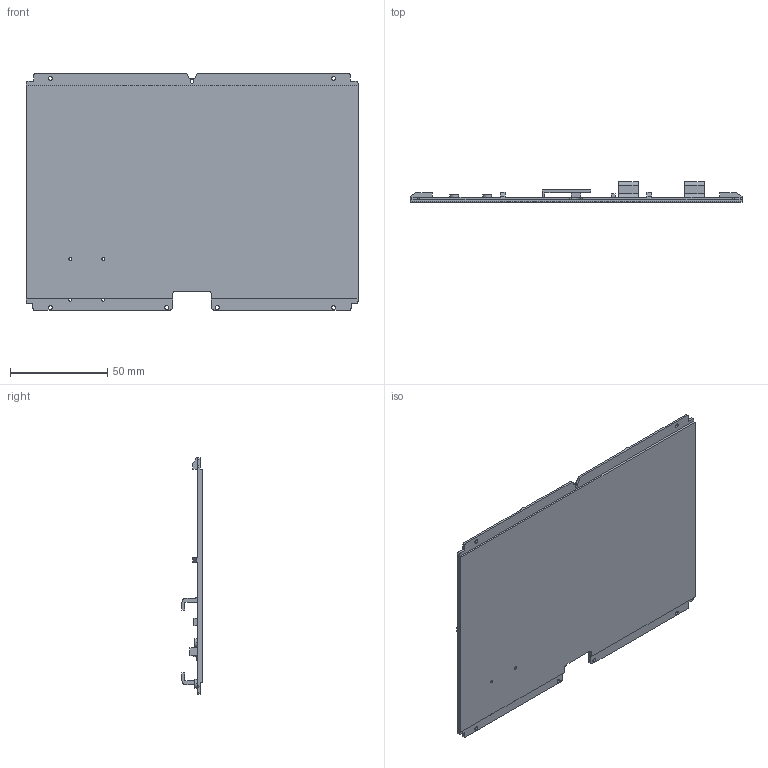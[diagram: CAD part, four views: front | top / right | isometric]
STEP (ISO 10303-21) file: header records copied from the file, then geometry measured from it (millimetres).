
FILE_DESCRIPTION((''),'2;1');
FILE_NAME('00','2025-04-08T12:12:11',('seeed'),(''),'CREO PARAMETRIC BY PTC INC, 2021404','CREO PARAMETRIC BY PTC INC, 2021404','');
FILE_SCHEMA(('AUTOMOTIVE_DESIGN { 1 0 10303 214 1 1 1 1 }'));
Length unit declared in the file: millimetre
Products named in the file (1): 00
Bounding box: 171 x 10.35 x 122 mm (x, y, z)
Volume: 45770.4 mm3; surface area: 44304.6 mm2
Topology: 1 solids, 1 shells, 160 faces, 463 edges, 342 vertices
Faces by surface type: plane 103, cylinder 53, bspline 4
Entity records: 6037 total; most frequent: CARTESIAN_POINT 1026, DIRECTION 899, ORIENTED_EDGE 876, EDGE_CURVE 438, VECTOR 341, LINE 341, COLOUR_RGB 315, VERTEX_POINT 292
